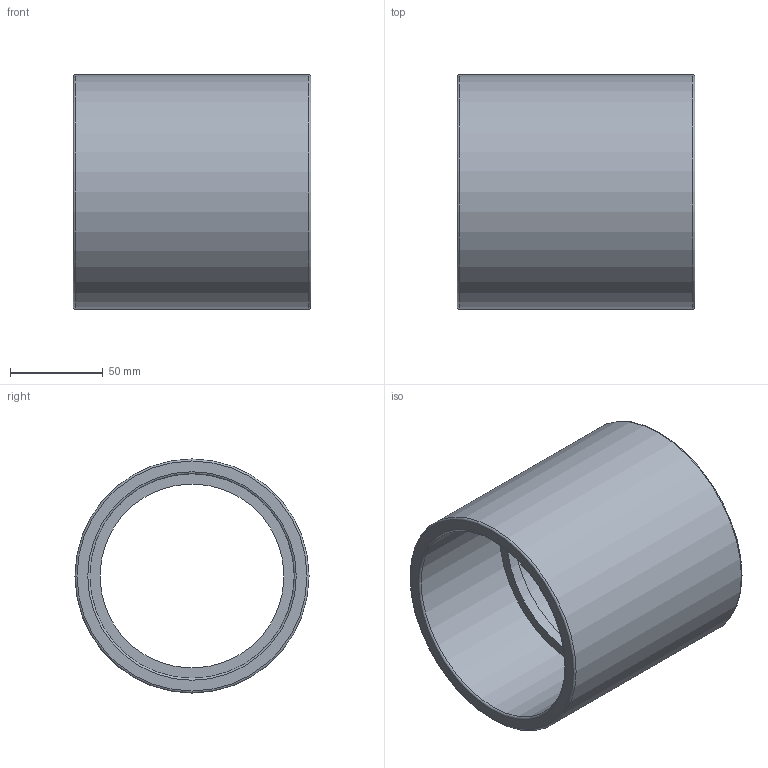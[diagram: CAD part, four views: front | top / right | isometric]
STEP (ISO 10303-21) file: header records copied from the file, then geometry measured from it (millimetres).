
FILE_DESCRIPTION(/* description */ ('PLASSON SOCKET PVC 110 - CEMENT'),/* implementation_level */ '2;1');
FILE_NAME(/* name */ 'C:\Dropbox\KIMPROJECTS-Inventor\99-16-3568-Processing\PVC Catalog 2017\050100\050100110.ipt.stp',/* time_stamp */ '2017-12-07T15:51:28+02:00',/* author */ ('KIM'),/* organization */ (''),/* preprocessor_version */ 'ST-DEVELOPER v15.6',/* originating_system */ 'Autodesk Inventor 2015',/* authorisation */ '');
FILE_SCHEMA (('AUTOMOTIVE_DESIGN { 1 0 10303 214 3 1 1 }'));
Length unit declared in the file: millimetre
Products named in the file (1): 050100110
Bounding box: 128 x 126 x 126 mm (x, y, z)
Volume: 390053.7 mm3; surface area: 103536.4 mm2
Topology: 1 solids, 1 shells, 12 faces, 20 edges, 12 vertices
Faces by surface type: torus 4, plane 4, cylinder 4
Full cylindrical faces by diameter (mm): 99 x1, 110 x2, 126 x1
Entity records: 272 total; most frequent: DIRECTION 50, CARTESIAN_POINT 37, AXIS2_PLACEMENT_3D 25, EDGE_LOOP 24, ORIENTED_EDGE 24, FACE_BOUND 12, FACE_OUTER_BOUND 12, CIRCLE 12
